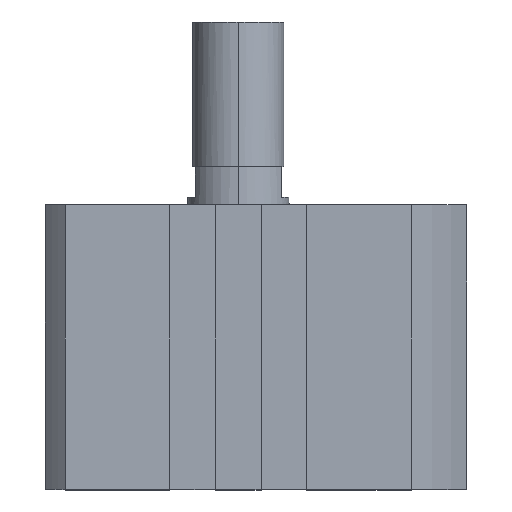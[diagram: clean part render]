
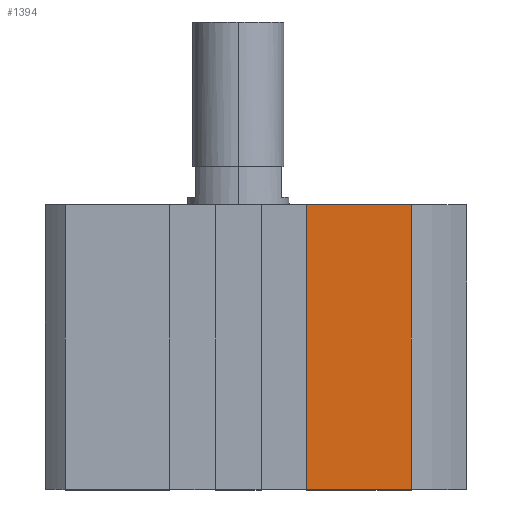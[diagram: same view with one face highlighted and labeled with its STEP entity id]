
A CAD part, top view. The second image highlights one B-rep face of the part: STEP entity #1394.
In plain terms, the highlighted planar face has unit normal (0, 0, 1).
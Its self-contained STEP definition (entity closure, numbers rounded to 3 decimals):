
#41 = ORIENTED_EDGE ( 'NONE', *, *, #2408, .T. ) ;
#51 = EDGE_LOOP ( 'NONE', ( #590, #2939, #41, #1271 ) ) ;
#66 = CARTESIAN_POINT ( 'NONE',  ( 13.5, -56., 38. ) ) ;
#88 = CARTESIAN_POINT ( 'NONE',  ( 34.015, 0., 38. ) ) ;
#213 = LINE ( 'NONE', #3263, #1574 ) ;
#383 = LINE ( 'NONE', #1706, #1070 ) ;
#559 = CARTESIAN_POINT ( 'NONE',  ( 34.015, -56., 38. ) ) ;
#590 = ORIENTED_EDGE ( 'NONE', *, *, #1360, .F. ) ;
#641 = DIRECTION ( 'NONE',  ( 0., 1., 0. ) ) ;
#699 = EDGE_CURVE ( 'NONE', #2252, #2346, #729, .T. ) ;
#729 = LINE ( 'NONE', #559, #2154 ) ;
#835 = DIRECTION ( 'NONE',  ( 0., 1., 0. ) ) ;
#927 = CARTESIAN_POINT ( 'NONE',  ( 0., 0., 38. ) ) ;
#939 = PLANE ( 'NONE',  #2316 ) ;
#1070 = VECTOR ( 'NONE', #1433, 1000. ) ;
#1271 = ORIENTED_EDGE ( 'NONE', *, *, #699, .T. ) ;
#1360 = EDGE_CURVE ( 'NONE', #3310, #2346, #2486, .T. ) ;
#1394 = ADVANCED_FACE ( 'NONE', ( #1949 ), #939, .T. ) ;
#1399 = CARTESIAN_POINT ( 'NONE',  ( 34.015, -56., 38. ) ) ;
#1433 = DIRECTION ( 'NONE',  ( 1., 0., 0. ) ) ;
#1462 = DIRECTION ( 'NONE',  ( 0., 0., 1. ) ) ;
#1574 = VECTOR ( 'NONE', #641, 1000. ) ;
#1644 = VERTEX_POINT ( 'NONE', #66 ) ;
#1706 = CARTESIAN_POINT ( 'NONE',  ( 0., -56., 38. ) ) ;
#1949 = FACE_OUTER_BOUND ( 'NONE', #51, .T. ) ;
#1998 = CARTESIAN_POINT ( 'NONE',  ( 0., -56., 38. ) ) ;
#2154 = VECTOR ( 'NONE', #835, 1000. ) ;
#2252 = VERTEX_POINT ( 'NONE', #1399 ) ;
#2316 = AXIS2_PLACEMENT_3D ( 'NONE', #1998, #1462, #2508 ) ;
#2346 = VERTEX_POINT ( 'NONE', #88 ) ;
#2405 = CARTESIAN_POINT ( 'NONE',  ( 13.5, 0., 38. ) ) ;
#2408 = EDGE_CURVE ( 'NONE', #1644, #2252, #383, .T. ) ;
#2427 = EDGE_CURVE ( 'NONE', #1644, #3310, #213, .T. ) ;
#2486 = LINE ( 'NONE', #927, #3335 ) ;
#2508 = DIRECTION ( 'NONE',  ( 1., 0., 0. ) ) ;
#2939 = ORIENTED_EDGE ( 'NONE', *, *, #2427, .F. ) ;
#3035 = DIRECTION ( 'NONE',  ( 1., 0., 0. ) ) ;
#3263 = CARTESIAN_POINT ( 'NONE',  ( 13.5, -56., 38. ) ) ;
#3310 = VERTEX_POINT ( 'NONE', #2405 ) ;
#3335 = VECTOR ( 'NONE', #3035, 1000. ) ;
